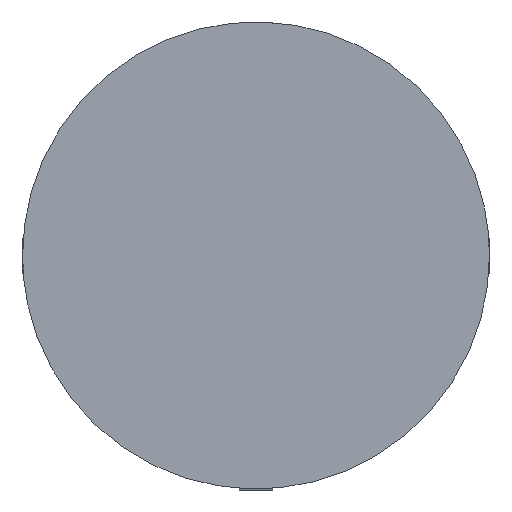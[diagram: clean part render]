
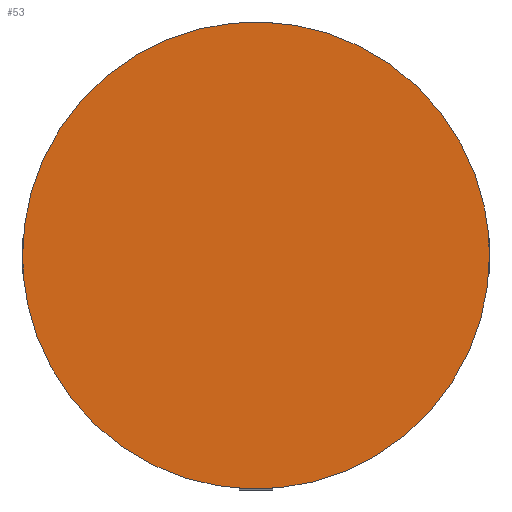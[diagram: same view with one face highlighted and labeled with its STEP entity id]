
A CAD part, top view. The second image highlights one B-rep face of the part: STEP entity #53.
In plain terms, the highlighted planar face has unit normal (0, 0, 1).
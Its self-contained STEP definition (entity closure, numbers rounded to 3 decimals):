
#53=ADVANCED_FACE('',(#84),#454,.T.);
#84=FACE_OUTER_BOUND('',#115,.T.);
#115=EDGE_LOOP('',(#244,#245));
#244=ORIENTED_EDGE('',*,*,#314,.F.);
#245=ORIENTED_EDGE('',*,*,#312,.F.);
#312=EDGE_CURVE('',#422,#423,#327,.T.);
#314=EDGE_CURVE('',#423,#422,#329,.T.);
#327=(
BOUNDED_CURVE()
B_SPLINE_CURVE(2,(#1214,#1215,#1216,#1217,#1218),.UNSPECIFIED.,.F.,.F.)
B_SPLINE_CURVE_WITH_KNOTS((3,2,3),(-1099.557,-824.668,
-549.779),.UNSPECIFIED.)
CURVE()
GEOMETRIC_REPRESENTATION_ITEM()
RATIONAL_B_SPLINE_CURVE((1.,0.707,1.,0.707,1.))
REPRESENTATION_ITEM('')
);
#329=(
BOUNDED_CURVE()
B_SPLINE_CURVE(2,(#1222,#1223,#1224,#1225,#1226),.UNSPECIFIED.,.F.,.F.)
B_SPLINE_CURVE_WITH_KNOTS((3,2,3),(-549.779,-274.889,
0.),.UNSPECIFIED.)
CURVE()
GEOMETRIC_REPRESENTATION_ITEM()
RATIONAL_B_SPLINE_CURVE((1.,0.707,1.,0.707,1.))
REPRESENTATION_ITEM('')
);
#422=VERTEX_POINT('',#1209);
#423=VERTEX_POINT('',#1210);
#454=PLANE('',#498);
#498=AXIS2_PLACEMENT_3D('',#1182,#525,$);
#525=DIRECTION('',(0.,0.,1.));
#1182=CARTESIAN_POINT('',(203.454,216.503,450.));
#1209=CARTESIAN_POINT('',(636.255,-13.121,450.));
#1210=CARTESIAN_POINT('',(286.255,-13.121,450.));
#1214=CARTESIAN_POINT('',(636.255,-13.121,450.));
#1215=CARTESIAN_POINT('',(636.255,-188.121,450.));
#1216=CARTESIAN_POINT('',(461.255,-188.121,450.));
#1217=CARTESIAN_POINT('',(286.255,-188.121,450.));
#1218=CARTESIAN_POINT('',(286.255,-13.121,450.));
#1222=CARTESIAN_POINT('',(286.255,-13.121,450.));
#1223=CARTESIAN_POINT('',(286.255,161.879,450.));
#1224=CARTESIAN_POINT('',(461.255,161.879,450.));
#1225=CARTESIAN_POINT('',(636.255,161.879,450.));
#1226=CARTESIAN_POINT('',(636.255,-13.121,450.));
